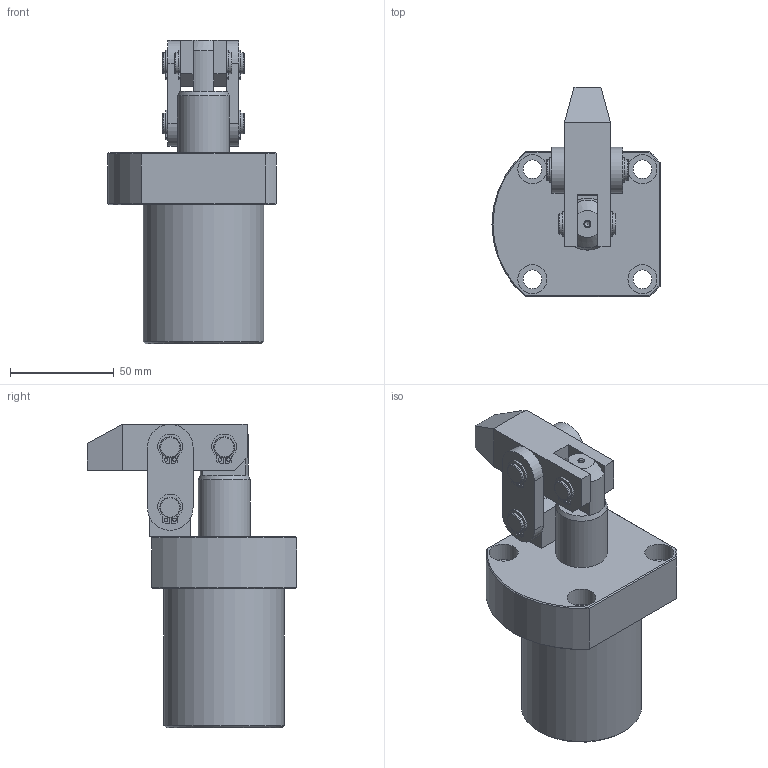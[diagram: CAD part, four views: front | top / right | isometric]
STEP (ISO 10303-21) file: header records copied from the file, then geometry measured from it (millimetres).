
FILE_DESCRIPTION(/* description */ ('Unknown'),/* implementation_level */ '2;1');
FILE_NAME(/* name */ 'HLB-FAM40-L-A',/* time_stamp */ '2025-05-13T02:31:07+08:00',/* author */ ('Unknown'),/* organization */ ('Unknown'),/* preprocessor_version */ 'ST-DEVELOPER v16.7',/* originating_system */ 'DEX',/* authorisation */ $);
FILE_SCHEMA (('AUTOMOTIVE_DESIGN {1 0 10303 214 3 1 1}'));
Length unit declared in the file: millimetre
Products named in the file (8): HLB-FAM40-L-A; HLB-FAM40-L-CYLINDER; HLB-40-墊; HLB-40-A; HLB-4002-AXLE CENTRE; HLB-40-PINｵuｭ; HLB-40-PINªø; HLB-40-CΙ弴
Assembly tree (14 placements, depth 2):
  HLB-FAM40-L-A
    HLB-FAM40-L-CYLINDER
    HLB-40-墊  x2
    HLB-40-A
    HLB-4002-AXLE CENTRE
    HLB-40-PINｵuｭ
    HLB-40-PINªø  x2
    HLB-40-CΙ弴  x6
Bounding box: 81 x 101 x 146.2 mm (x, y, z)
Volume: 334908.7 mm3; surface area: 74458.8 mm2
Topology: 14 solids, 14 shells, 254 faces, 576 edges, 377 vertices
Faces by surface type: plane 117, cylinder 113, cone 16, torus 8
Full cylindrical faces by diameter (mm): 1.7 x12, 2.496 x1, 3 x2, 4.1 x2, 9 x4, 9.5 x6, 10 x18, 12 x2, 14 x4, 25 x2, 40 x2, 58 x1
Entity records: 4090 total; most frequent: DIRECTION 711, CARTESIAN_POINT 678, ORIENTED_EDGE 520, AXIS2_PLACEMENT_3D 299, EDGE_CURVE 260, FACE_BOUND 256, EDGE_LOOP 255, VERTEX_POINT 198
